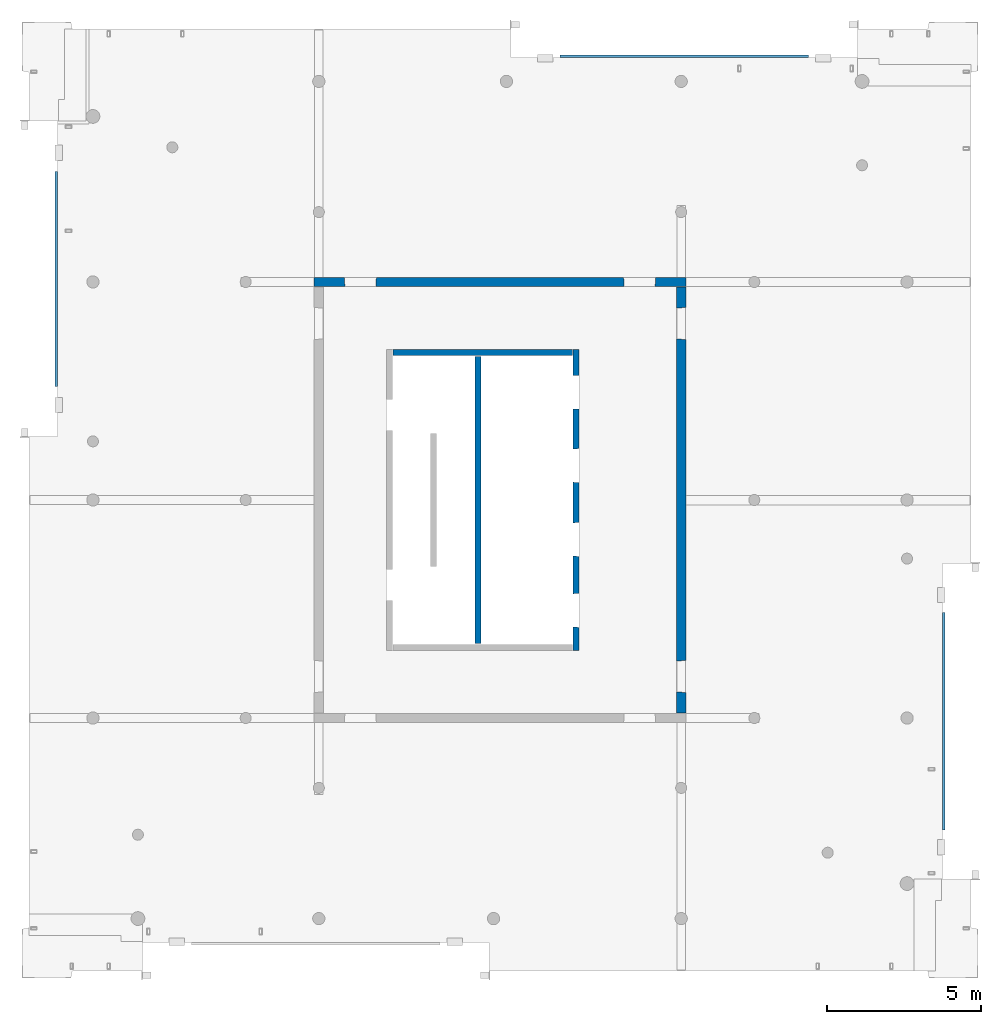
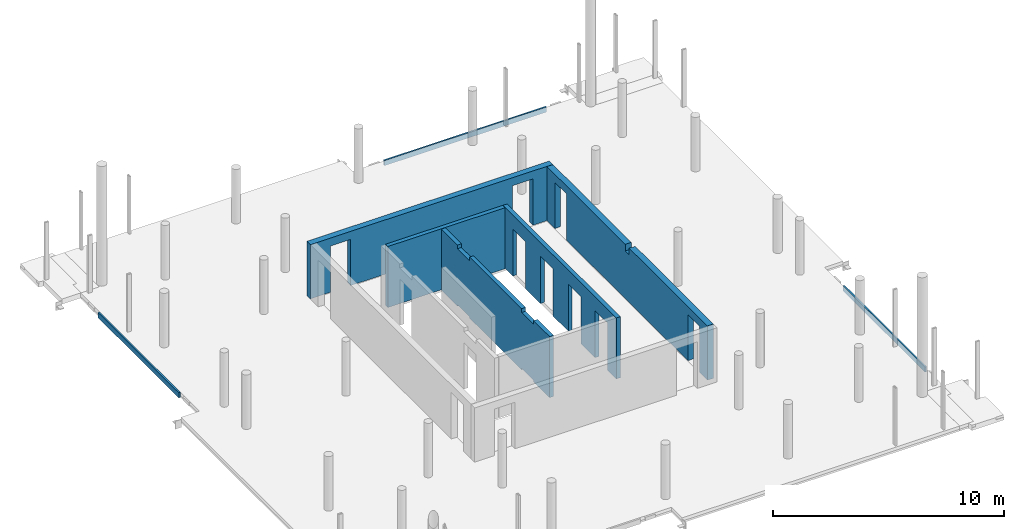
# One storey, part 6 of 7: 8 walls, 17 openings.
"""IFC2X3 building model written with IfcOpenShell, lengths in millimetres."""

from ifc_helpers import new_model, entity, si_unit, converted_unit, derived_unit, direction, frame, frame_2d, origin, origin_2d_with_axis, place, context, subcontext, project, spatial, rectangle, extrude, faceted_brep, material, layer, layer_set, layer_usage, type_object, element, save


model = new_model("IFC2X3")

# Units and contexts
model_context = context("Model", 3, precision=0.01, world=origin(), true_north=direction((6.12303176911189e-17, 1.0)))
body_context = subcontext(model_context, "Body", "Model", "MODEL_VIEW")
ifc_project = project(units=[si_unit("LENGTHUNIT", "METRE", prefix="MILLI"), si_unit("AREAUNIT", "SQUARE_METRE"), si_unit("VOLUMEUNIT", "CUBIC_METRE"), converted_unit("PLANEANGLEUNIT", "DEGREE", entity("IfcRatioMeasure", 0.0174532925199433), si_unit("PLANEANGLEUNIT", "RADIAN"), dimensions=[0, 0, 0, 0, 0, 0, 0]), si_unit("MASSUNIT", "GRAM", prefix="KILO"), derived_unit("MASSDENSITYUNIT", [(si_unit("MASSUNIT", "GRAM", prefix="KILO"), 1), (si_unit("LENGTHUNIT", "METRE"), -3)]), si_unit("TIMEUNIT", "SECOND"), si_unit("FREQUENCYUNIT", "HERTZ"), si_unit("THERMODYNAMICTEMPERATUREUNIT", "DEGREE_CELSIUS"), derived_unit("THERMALTRANSMITTANCEUNIT", [(si_unit("MASSUNIT", "GRAM", prefix="KILO"), 1), (si_unit("THERMODYNAMICTEMPERATUREUNIT", "KELVIN"), -1), (si_unit("TIMEUNIT", "SECOND"), -3)]), derived_unit("VOLUMETRICFLOWRATEUNIT", [(si_unit("LENGTHUNIT", "METRE"), 3), (si_unit("TIMEUNIT", "SECOND"), -1)]), si_unit("ELECTRICCURRENTUNIT", "AMPERE"), si_unit("ELECTRICVOLTAGEUNIT", "VOLT"), si_unit("POWERUNIT", "WATT"), si_unit("FORCEUNIT", "NEWTON", prefix="KILO"), si_unit("ILLUMINANCEUNIT", "LUX"), si_unit("LUMINOUSFLUXUNIT", "LUMEN"), si_unit("LUMINOUSINTENSITYUNIT", "CANDELA"), derived_unit("USERDEFINED", [(si_unit("MASSUNIT", "GRAM", prefix="KILO"), -1), (si_unit("LENGTHUNIT", "METRE"), -2), (si_unit("TIMEUNIT", "SECOND"), 3), (si_unit("LUMINOUSFLUXUNIT", "LUMEN"), 1)]), derived_unit("LINEARVELOCITYUNIT", [(si_unit("LENGTHUNIT", "METRE"), 1), (si_unit("TIMEUNIT", "SECOND"), -1)]), si_unit("PRESSUREUNIT", "PASCAL"), derived_unit("USERDEFINED", [(si_unit("LENGTHUNIT", "METRE"), -2), (si_unit("MASSUNIT", "GRAM", prefix="KILO"), 1), (si_unit("TIMEUNIT", "SECOND"), -2)])], contexts=[model_context])

# Site, building, storey
site_placement = place(None, origin())
site = spatial("IfcSite", under=ifc_project, at=site_placement, Name="Default", CompositionType="ELEMENT")
building_placement = place(site_placement, origin())
building = spatial("IfcBuilding", under=site, at=building_placement, Name="niet gebruiken", CompositionType="ELEMENT")
storey_placement = place(building_placement, frame((0.0, 0.0, 165060.0)))
storey = spatial("IfcBuildingStorey", under=building, at=storey_placement, Name="53 drieënvijftigste verdieping", CompositionType="ELEMENT", Elevation=165060.0)

# Wall, openings
ifc_material_1 = material(Name="NLRS_f2_beton prefab")
ifc_layer_1 = layer(ifc_material_1, 200.0)
ifc_layer_set_1 = layer_set([ifc_layer_1], Name="Basic Wall:NLRS_22.21_WA_beton prefab d=200_gen")
ifc_layer_usage_1 = layer_usage(ifc_layer_set_1, "AXIS2", "NEGATIVE", 100.0)
wall_type_1 = type_object("IfcWallType", Name="Basic Wall:NLRS_22.21_WA_beton prefab d=200_gen", PredefinedType="STANDARD", material=ifc_layer_set_1)
wall_1_placement = place(storey_placement, frame((144230.0, 22400.0, -50.0), z_axis=(0.0, 0.0, 1.0), x_axis=(0.0, -1.0, 0.0)))
wall_1 = element("IfcWallStandardCase", 1, at=wall_1_placement, inside=storey, type_object=wall_type_1, material=ifc_layer_usage_1, Name="Basic Wall:NLRS_22.21_WA_beton prefab d=200_gen", ObjectType="Basic Wall:NLRS_22.21_WA_beton prefab d=200_gen", context=body_context, shape_type="SweptSolid", body=[
    extrude(rectangle(XDim=9800.0, YDim=199.999999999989, at=frame_2d((4900.0, -3.69482222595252e-13), x_axis=(-1.0, 0.0))), origin(), (0.0, 0.0, 1.0), 3220.00000000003),
])
opening_1_placement = place(wall_1_placement, frame((9047.0, -100.0, 0.0)))
element("IfcOpeningElement", 2, at=opening_1_placement, cuts=wall_1, Name="Basic Wall:NLRS_22.21_WA_beton prefab d=200_gen", ObjectType="Opening", context=body_context, shape_type="Brep", body=[
    faceted_brep([(-1104.0, 200.0, 2502.0), (-1104.0, 200.0, 0.0), (-1092.0, 0.0, 0.0), (-1092.0, 0.0, 2490.0), (0.0, 200.0, 0.0), (-12.0, 0.0, 0.0), (-12.0, 0.0, 2490.0), (0.0, 200.0, 2502.0)], [[[0, 1, 2, 3]], [[1, 4, 5, 2]], [[6, 3, 2, 5]], [[7, 4, 1, 0]], [[7, 0, 3, 6]], [[4, 7, 6, 5]]]),
])
opening_2_placement = place(wall_1_placement, frame((6737.0, -100.0, 0.0)))
element("IfcOpeningElement", 3, at=opening_2_placement, cuts=wall_1, Name="Basic Wall:NLRS_22.21_WA_beton prefab d=200_gen", ObjectType="Opening", context=body_context, shape_type="Brep", body=[
    faceted_brep([(-1104.0, 200.0, 2502.0), (-1104.0, 200.0, 0.0), (-1092.0, 0.0, 0.0), (-1092.0, 0.0, 2490.0), (0.0, 200.0, 0.0), (-12.0, 0.0, 0.0), (-12.0, 0.0, 2490.0), (0.0, 200.0, 2502.0)], [[[0, 1, 2, 3]], [[1, 4, 5, 2]], [[6, 3, 2, 5]], [[7, 4, 1, 0]], [[7, 0, 3, 6]], [[4, 7, 6, 5]]]),
])
opening_3_placement = place(wall_1_placement, frame((4332.0, -100.0, 0.0)))
element("IfcOpeningElement", 4, at=opening_3_placement, cuts=wall_1, Name="Basic Wall:NLRS_22.21_WA_beton prefab d=200_gen", ObjectType="Opening", context=body_context, shape_type="Brep", body=[
    faceted_brep([(-1104.0, 200.0, 2502.0), (-1104.0, 200.0, 0.0), (-1092.0, 0.0, 0.0), (-1092.0, 0.0, 2490.0), (0.0, 200.0, 0.0), (-12.0, 0.0, 0.0), (-12.0, 0.0, 2490.0), (0.0, 200.0, 2502.0)], [[[0, 1, 2, 3]], [[1, 4, 5, 2]], [[6, 3, 2, 5]], [[7, 4, 1, 0]], [[7, 0, 3, 6]], [[4, 7, 6, 5]]]),
])
opening_4_placement = place(wall_1_placement, frame((1942.0, -100.0, 0.0)))
element("IfcOpeningElement", 5, at=opening_4_placement, cuts=wall_1, Name="Basic Wall:NLRS_22.21_WA_beton prefab d=200_gen", ObjectType="Opening", context=body_context, shape_type="Brep", body=[
    faceted_brep([(-1104.0, 200.0, 2502.0), (-1104.0, 200.0, 0.0), (-1092.0, 0.0, 0.0), (-1092.0, 0.0, 2490.0), (0.0, 200.0, 0.0), (-12.0, 0.0, 0.0), (-12.0, 0.0, 2490.0), (0.0, 200.0, 2502.0)], [[[0, 1, 2, 3]], [[1, 4, 5, 2]], [[6, 3, 2, 5]], [[7, 4, 1, 0]], [[7, 0, 3, 6]], [[4, 7, 6, 5]]]),
])

ifc_layer_usage_2 = layer_usage(ifc_layer_set_1, "AXIS2", "NEGATIVE", 100.0)
wall_2_placement = place(storey_placement, frame((141030.0, 22180.0, -50.0), z_axis=(0.0, 0.0, 1.0), x_axis=(0.0, -1.0, 0.0)))
wall_2 = element("IfcWallStandardCase", 6, at=wall_2_placement, inside=storey, type_object=wall_type_1, material=ifc_layer_usage_2, Name="Basic Wall:NLRS_22.21_WA_beton prefab d=200_gen", ObjectType="Basic Wall:NLRS_22.21_WA_beton prefab d=200_gen", context=body_context, shape_type="SweptSolid", body=[
    extrude(rectangle(XDim=9360.0, YDim=199.999999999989, at=frame_2d((4680.0, -2.8421709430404e-14), x_axis=(-1.0, 0.0))), origin(), (0.0, 0.0, 1.0), 3220.00000000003),
])
opening_5_placement = place(wall_2_placement, origin())
element("IfcOpeningElement", 7, at=opening_5_placement, cuts=wall_2, Name="Basic Wall:NLRS_22.21_WA_beton prefab d=200_gen", ObjectType="Opening", context=body_context, shape_type="SweptSolid", body=[
    extrude(rectangle(XDim=69.9999999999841, YDim=1044.0, at=frame_2d((-1.732658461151e-11, 0.0), x_axis=(1.0, 0.0))), frame((7452.0, -100.0, 35.0), z_axis=(0.0, 1.0, 0.0), x_axis=(0.0, 0.0, -1.0)), (0.0, 0.0, 1.0), 199.999999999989),
])
opening_6_placement = place(wall_2_placement, origin())
element("IfcOpeningElement", 8, at=opening_6_placement, cuts=wall_2, Name="Basic Wall:NLRS_22.21_WA_beton prefab d=200_gen", ObjectType="Opening", context=body_context, shape_type="SweptSolid", body=[
    extrude(rectangle(XDim=69.9999999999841, YDim=1044.0, at=frame_2d((-1.732658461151e-11, -2.1600499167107e-12), x_axis=(1.0, 0.0))), frame((1908.0, -100.0, 35.0), z_axis=(0.0, 1.0, 0.0), x_axis=(0.0, 0.0, -1.0)), (0.0, 0.0, 1.0), 199.999999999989),
])
opening_7_placement = place(wall_2_placement, origin())
element("IfcOpeningElement", 9, at=opening_7_placement, cuts=wall_2, Name="Basic Wall:NLRS_22.21_WA_beton prefab d=200_gen", ObjectType="Opening", context=body_context, shape_type="SweptSolid", body=[
    extrude(rectangle(XDim=200.000000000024, YDim=1044.0, at=frame_2d((0.0, -2.1600499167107e-12), x_axis=(1.0, 0.0))), frame((1908.0, -100.0, 3120.0), z_axis=(0.0, 1.0, 0.0), x_axis=(0.0, 0.0, -1.0)), (0.0, 0.0, 1.0), 199.999999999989),
])
opening_8_placement = place(wall_2_placement, origin())
element("IfcOpeningElement", 10, at=opening_8_placement, cuts=wall_2, Name="Basic Wall:NLRS_22.21_WA_beton prefab d=200_gen", ObjectType="Opening", context=body_context, shape_type="SweptSolid", body=[
    extrude(rectangle(XDim=200.000000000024, YDim=1044.0, at=origin_2d_with_axis()), frame((7452.0, -100.0, 3120.0), z_axis=(0.0, 1.0, 0.0), x_axis=(0.0, 0.0, -1.0)), (0.0, 0.0, 1.0), 199.999999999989),
])
opening_9_placement = place(wall_2_placement, origin())
element("IfcOpeningElement", 11, at=opening_9_placement, cuts=wall_2, Name="Basic Wall:NLRS_22.21_WA_beton prefab d=200_gen", ObjectType="Recess", context=body_context, shape_type="SweptSolid", body=[
    extrude(rectangle(XDim=399.999999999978, YDim=280.000000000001, at=frame_2d((-2.1600499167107e-12, 0.0), x_axis=(0.0, 1.0))), frame((770.0, -60.0, 438.0), z_axis=(0.0, 1.0, 0.0), x_axis=(1.0, 0.0, 0.0)), (0.0, 0.0, 1.0), 159.999999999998),
])
opening_10_placement = place(wall_2_placement, origin())
element("IfcOpeningElement", 12, at=opening_10_placement, cuts=wall_2, Name="Basic Wall:NLRS_22.21_WA_beton prefab d=200_gen", ObjectType="Recess", context=body_context, shape_type="SweptSolid", body=[
    extrude(rectangle(XDim=399.999999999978, YDim=280.000000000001, at=frame_2d((-2.1600499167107e-12, 0.0), x_axis=(0.0, 1.0))), frame((1570.0, -60.0, 438.0), z_axis=(0.0, 1.0, 0.0), x_axis=(1.0, 0.0, 0.0)), (0.0, 0.0, 1.0), 159.999999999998),
])
opening_11_placement = place(wall_2_placement, origin())
element("IfcOpeningElement", 13, at=opening_11_placement, cuts=wall_2, Name="Basic Wall:NLRS_22.21_WA_beton prefab d=200_gen", ObjectType="Recess", context=body_context, shape_type="SweptSolid", body=[
    extrude(rectangle(XDim=399.999999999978, YDim=279.999999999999, at=frame_2d((1.08002495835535e-12, 0.0), x_axis=(0.0, 1.0))), frame((3160.0, -60.0, 438.0), z_axis=(0.0, 1.0, 0.0), x_axis=(1.0, 0.0, 0.0)), (0.0, 0.0, 1.0), 159.999999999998),
])
opening_12_placement = place(wall_2_placement, origin())
element("IfcOpeningElement", 14, at=opening_12_placement, cuts=wall_2, Name="Basic Wall:NLRS_22.21_WA_beton prefab d=200_gen", ObjectType="Recess", context=body_context, shape_type="SweptSolid", body=[
    extrude(rectangle(XDim=399.999999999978, YDim=279.999999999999, at=frame_2d((1.08002495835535e-12, 0.0), x_axis=(0.0, 1.0))), frame((3960.0, -60.0, 438.0), z_axis=(0.0, 1.0, 0.0), x_axis=(1.0, 0.0, 0.0)), (0.0, 0.0, 1.0), 159.999999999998),
])

# Wall
ifc_layer_usage_3 = layer_usage(ifc_layer_set_1, "AXIS2", "NEGATIVE", 100.0)
wall_3_placement = place(storey_placement, frame((138270.0, 22300.0, -50.0)))
element("IfcWallStandardCase", 15, at=wall_3_placement, inside=storey, type_object=wall_type_1, material=ifc_layer_usage_3, Name="Basic Wall:NLRS_22.21_WA_beton prefab d=200_gen", ObjectType="Basic Wall:NLRS_22.21_WA_beton prefab d=200_gen", context=body_context, shape_type="SweptSolid", body=[
    extrude(rectangle(XDim=5839.99999999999, YDim=199.999999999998, at=frame_2d((2919.99999999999, -7.60280727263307e-13), x_axis=(-1.0, 0.0))), origin(), (0.0, 0.0, 1.0), 3220.00000000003),
])

# Wall, openings
ifc_layer_2 = layer(ifc_material_1, 300.0)
ifc_layer_set_2 = layer_set([ifc_layer_2], Name="Basic Wall:NLRS_22.21_WA_beton prefab d=300_gen")
ifc_layer_usage_4 = layer_usage(ifc_layer_set_2, "AXIS2", "NEGATIVE", 150.0)
wall_type_2 = type_object("IfcWallType", Name="Basic Wall:NLRS_22.21_WA_beton prefab d=300_gen", PredefinedType="STANDARD", material=ifc_layer_set_2)
wall_4_placement = place(storey_placement, frame((147650.0, 24430.0, -60.0), z_axis=(0.0, 0.0, 1.0), x_axis=(0.0, -1.0, 0.0)))
wall_4 = element("IfcWallStandardCase", 16, at=wall_4_placement, inside=storey, type_object=wall_type_2, material=ifc_layer_usage_4, Name="Basic Wall:NLRS_22.21_WA_beton prefab d=300_gen", ObjectType="Basic Wall:NLRS_22.21_WA_beton prefab d=300_gen", context=body_context, shape_type="SweptSolid", body=[
    extrude(rectangle(XDim=13860.0, YDim=300.000000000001, at=frame_2d((6930.0, -1.4210854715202e-14), x_axis=(-1.0, 0.0))), origin(), (0.0, 0.0, 1.0), 2859.99999999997),
])
opening_13_placement = place(wall_4_placement, frame((13198.0, -150.0, -10.0)))
element("IfcOpeningElement", 17, at=opening_13_placement, cuts=wall_4, Name="Basic Wall:NLRS_22.21_WA_beton prefab d=300_gen", ObjectType="Opening", context=body_context, shape_type="Brep", body=[
    faceted_brep([(-1042.0, 300.0, 2466.0), (-1042.0, 300.0, 0.0), (-1024.0, 0.0, 0.0), (-1024.0, 0.0, 2448.0), (0.0, 300.0, 0.0), (-18.0, 0.0, 0.0), (-18.0, 0.0, 2448.0), (0.0, 300.0, 2466.0)], [[[0, 1, 2, 3]], [[1, 4, 5, 2]], [[6, 3, 2, 5]], [[7, 4, 1, 0]], [[7, 0, 3, 6]], [[4, 7, 6, 5]]]),
])
opening_14_placement = place(wall_4_placement, frame((1704.0, -150.0, -10.0)))
element("IfcOpeningElement", 18, at=opening_14_placement, cuts=wall_4, Name="Basic Wall:NLRS_22.21_WA_beton prefab d=300_gen", ObjectType="Opening", context=body_context, shape_type="Brep", body=[
    faceted_brep([(-1042.0, 300.0, 2466.0), (-1042.0, 300.0, 0.0), (-1024.0, 0.0, 0.0), (-1024.0, 0.0, 2448.0), (0.0, 300.0, 0.0), (-18.0, 0.0, 0.0), (-18.0, 0.0, 2448.0), (0.0, 300.0, 2466.0)], [[[0, 1, 2, 3]], [[1, 4, 5, 2]], [[6, 3, 2, 5]], [[7, 4, 1, 0]], [[7, 0, 3, 6]], [[4, 7, 6, 5]]]),
])
opening_15_placement = place(wall_4_placement, origin())
element("IfcOpeningElement", 19, at=opening_15_placement, cuts=wall_4, Name="Basic Wall:NLRS_22.21_WA_beton prefab d=300_gen", ObjectType="Opening", context=body_context, shape_type="SweptSolid", body=[
    extrude(rectangle(XDim=350.000000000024, YDim=340.000000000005, at=frame_2d((0.0, 0.0), x_axis=(0.0, 1.0))), frame((6930.0, 150.0, 2685.0), z_axis=(0.0, -1.0, 0.0), x_axis=(-1.0, 0.0, 0.0)), (0.0, 0.0, 1.0), 300.0),
])

ifc_layer_usage_5 = layer_usage(ifc_layer_set_2, "AXIS2", "NEGATIVE", 150.0)
wall_5_placement = place(storey_placement, frame((135700.0, 24600.0, -60.0)))
wall_5 = element("IfcWallStandardCase", 20, at=wall_5_placement, inside=storey, type_object=wall_type_2, material=ifc_layer_usage_5, Name="Basic Wall:NLRS_22.21_WA_beton prefab d=300_gen", ObjectType="Basic Wall:NLRS_22.21_WA_beton prefab d=300_gen", context=body_context, shape_type="SweptSolid", body=[
    extrude(rectangle(XDim=12100.0000000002, YDim=300.000000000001, at=frame_2d((6050.0000000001, -1.13686837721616e-13), x_axis=(-1.0, 0.0))), origin(), (0.0, 0.0, 1.0), 2859.99999999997),
])
opening_16_placement = place(wall_5_placement, frame((982.0, -150.0, -10.0)))
element("IfcOpeningElement", 21, at=opening_16_placement, cuts=wall_5, Name="Basic Wall:NLRS_22.21_WA_beton prefab d=300_gen", ObjectType="Opening", context=body_context, shape_type="Brep", body=[
    faceted_brep([(0.0, 300.0, 2466.0), (0.0, 300.0, 0.0), (18.0, 0.0, 0.0), (18.0, 0.0, 2448.0), (1042.0, 300.0, 0.0), (1024.0, 0.0, 0.0), (1024.0, 0.0, 2448.0), (1042.0, 300.0, 2466.0)], [[[0, 1, 2, 3]], [[1, 4, 5, 2]], [[6, 3, 2, 5]], [[7, 4, 1, 0]], [[7, 0, 3, 6]], [[4, 7, 6, 5]]]),
])
opening_17_placement = place(wall_5_placement, frame((10076.0, -150.0, -10.0)))
element("IfcOpeningElement", 22, at=opening_17_placement, cuts=wall_5, Name="Basic Wall:NLRS_22.21_WA_beton prefab d=300_gen", ObjectType="Opening", context=body_context, shape_type="Brep", body=[
    faceted_brep([(0.0, 300.0, 2466.0), (0.0, 300.0, 0.0), (18.0, 0.0, 0.0), (18.0, 0.0, 2448.0), (1042.0, 300.0, 0.0), (1024.0, 0.0, 0.0), (1024.0, 0.0, 2448.0), (1042.0, 300.0, 2466.0)], [[[0, 1, 2, 3]], [[1, 4, 5, 2]], [[6, 3, 2, 5]], [[7, 4, 1, 0]], [[7, 0, 3, 6]], [[4, 7, 6, 5]]]),
])

# Walls
ifc_material_2 = material(Name="NLRS_a_isolatie")
ifc_layer_3 = layer(ifc_material_2, 80.0)
ifc_layer_set_3 = layer_set([ifc_layer_3], Name="Basic Wall:NLRS_21.10_WA_isokorf d=80_gen")
ifc_layer_usage_6 = layer_usage(ifc_layer_set_3, "AXIS2", "NEGATIVE", 40.0)
wall_type_3 = type_object("IfcWallType", Name="Basic Wall:NLRS_21.10_WA_isokorf d=80_gen", PredefinedType="STANDARD", material=ifc_layer_set_3)
wall_6_placement = place(storey_placement, frame((143710.0, 31945.0, -360.0)))
element("IfcWallStandardCase", 23, at=wall_6_placement, inside=storey, type_object=wall_type_3, material=ifc_layer_usage_6, Name="Basic Wall:NLRS_21.10_WA_isokorf d=80_gen", ObjectType="Basic Wall:NLRS_21.10_WA_isokorf d=80_gen", context=body_context, shape_type="SweptSolid", body=[
    extrude(rectangle(XDim=8080.0, YDim=79.9999999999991, at=frame_2d((4040.0, -5.6843418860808e-14), x_axis=(-1.0, 0.0))), origin(), (0.0, 0.0, 1.0), 270.000000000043),
])
ifc_layer_usage_7 = layer_usage(ifc_layer_set_3, "AXIS2", "NEGATIVE", 40.0)
wall_7_placement = place(storey_placement, frame((127305.0, 21200.0, -360.0), z_axis=(0.0, 0.0, 1.0), x_axis=(0.0, 1.0, 0.0)))
element("IfcWallStandardCase", 24, at=wall_7_placement, inside=storey, type_object=wall_type_3, material=ifc_layer_usage_7, Name="Basic Wall:NLRS_21.10_WA_isokorf d=80_gen", ObjectType="Basic Wall:NLRS_21.10_WA_isokorf d=80_gen", context=body_context, shape_type="SweptSolid", body=[
    extrude(rectangle(XDim=6999.99999999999, YDim=80.0000000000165, at=frame_2d((3500.0, -4.10693701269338e-12), x_axis=(-1.0, 0.0))), origin(), (0.0, 0.0, 1.0), 270.000000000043),
])
ifc_layer_usage_8 = layer_usage(ifc_layer_set_3, "AXIS2", "NEGATIVE", 40.0)
wall_8_placement = place(storey_placement, frame((156195.0, 13840.0, -360.0), z_axis=(0.0, 0.0, 1.0), x_axis=(0.0, -1.0, 0.0)))
element("IfcWallStandardCase", 25, at=wall_8_placement, inside=storey, type_object=wall_type_3, material=ifc_layer_usage_8, Name="Basic Wall:NLRS_21.10_WA_isokorf d=80_gen", ObjectType="Basic Wall:NLRS_21.10_WA_isokorf d=80_gen", context=body_context, shape_type="SweptSolid", body=[
    extrude(rectangle(XDim=7079.99999999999, YDim=79.9999999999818, at=frame_2d((3540.0, 2.98427949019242e-13), x_axis=(-1.0, 0.0))), origin(), (0.0, 0.0, 1.0), 270.000000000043),
])

save(model, "model.ifc")
